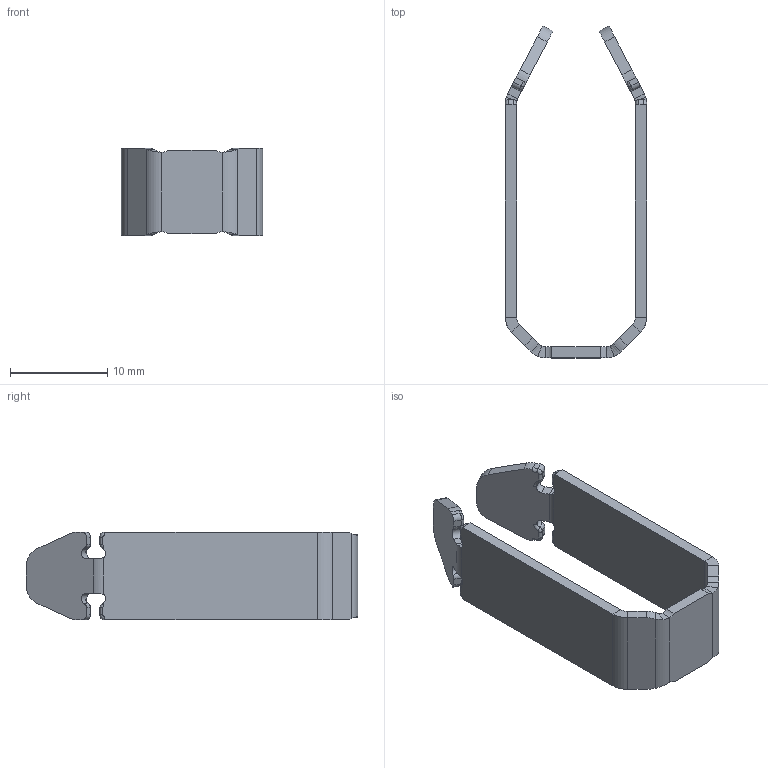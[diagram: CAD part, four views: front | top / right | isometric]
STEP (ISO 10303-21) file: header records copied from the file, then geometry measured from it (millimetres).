
FILE_DESCRIPTION (( 'STEP AP214' ), '1' );
FILE_NAME ('1007928.STEP', '2024-12-05T20:33:03', ( '' ), ( '' ), 'SwSTEP 2.0', 'SolidWorks 2021', '' );
FILE_SCHEMA (( 'AUTOMOTIVE_DESIGN' ));
Length unit declared in the file: millimetre
Products named in the file (1): 1007928
Bounding box: 14.5 x 34.07 x 9 mm (x, y, z)
Volume: 750.7 mm3; surface area: 1522.1 mm2
Topology: 1 solids, 1 shells, 186 faces, 452 edges, 268 vertices
Faces by surface type: plane 78, cylinder 68, torus 28, bspline 12
Entity records: 5482 total; most frequent: CARTESIAN_POINT 1099, DIRECTION 942, ORIENTED_EDGE 904, EDGE_CURVE 452, AXIS2_PLACEMENT_3D 359, VERTEX_POINT 268, VECTOR 224, LINE 224
